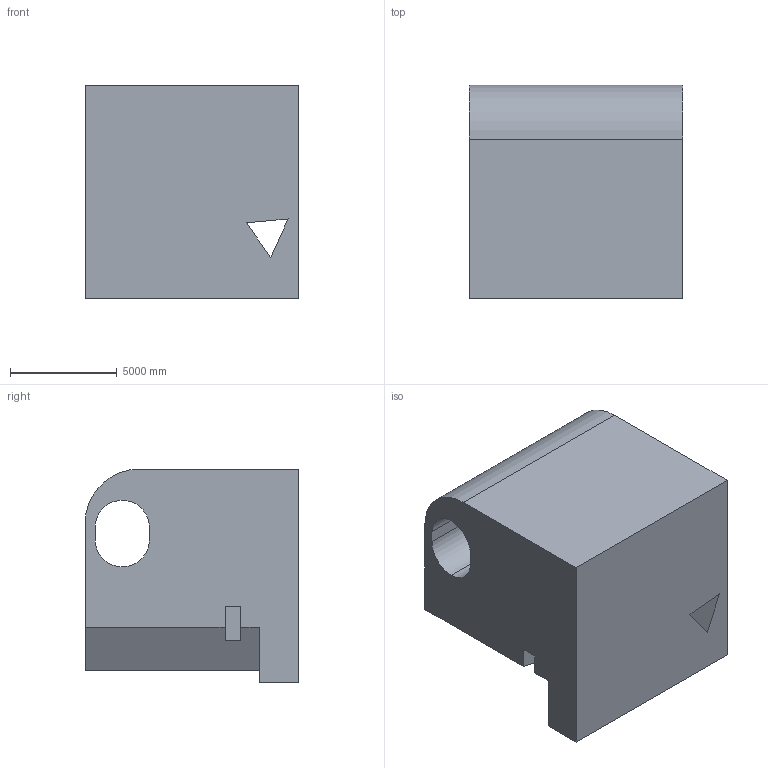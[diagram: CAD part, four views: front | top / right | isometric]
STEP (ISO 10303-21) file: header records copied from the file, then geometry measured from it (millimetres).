
FILE_DESCRIPTION (( 'STEP AP203' ), '1' );
FILE_NAME ('146.STEP', '2022-09-05T15:44:05', ( 'user' ), ( '' ), 'SwSTEP 2.0', 'SolidWorks 2021', '' );
FILE_SCHEMA (( 'CONFIG_CONTROL_DESIGN' ));
Length unit declared in the file: centimetre
Products named in the file (1): 146
Bounding box: 10000 x 10000 x 10000 mm (x, y, z)
Volume: 771708283260.7 mm3; surface area: 704570774.5 mm2
Topology: 1 solids, 1 shells, 21 faces, 57 edges, 38 vertices
Faces by surface type: plane 17, cylinder 4
Entity records: 744 total; most frequent: CARTESIAN_POINT 117, ORIENTED_EDGE 114, DIRECTION 109, EDGE_CURVE 57, LINE 49, VECTOR 49, VERTEX_POINT 38, AXIS2_PLACEMENT_3D 30
